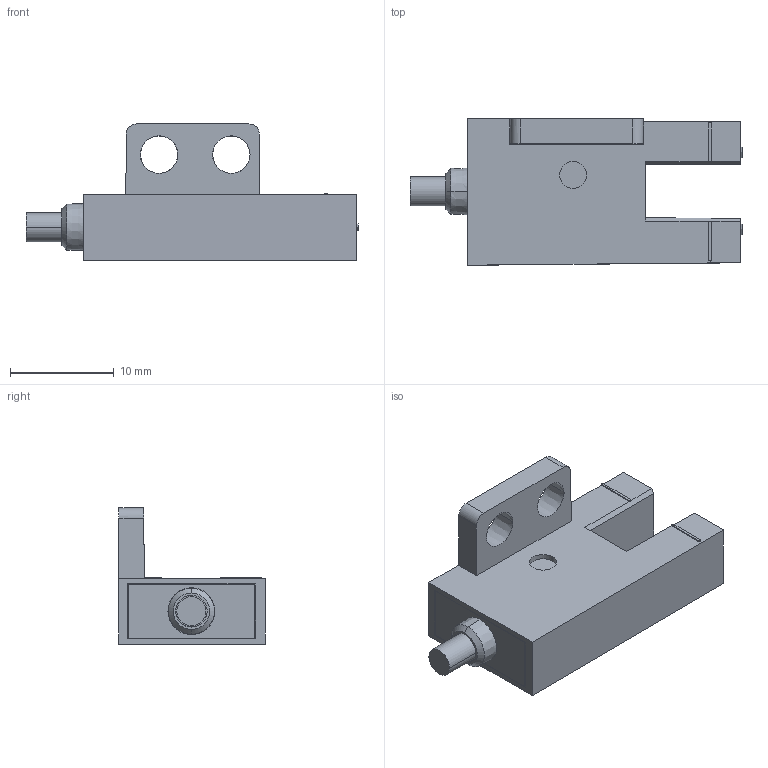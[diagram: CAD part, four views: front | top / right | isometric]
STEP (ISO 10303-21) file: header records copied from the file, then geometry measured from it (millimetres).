
FILE_DESCRIPTION((''),'2;1');
FILE_NAME('676_ASM_ASM','2018-07-16T14:28:10',('Administrator'),(''),'CREO PARAMETRIC BY PTC INC, 2016390','CREO PARAMETRIC BY PTC INC, 2016390','');
FILE_SCHEMA(('CONFIG_CONTROL_DESIGN'));
Length unit declared in the file: millimetre
Products named in the file (4): A1_108-67600_64; A2_40-676000_31; 676_ASM_6_ASM; 676_ASM_ASM
Assembly tree (3 placements, depth 3):
  676_ASM_ASM
    676_ASM_6_ASM
      A1_108-67600_64
      A2_40-676000_31
Bounding box: 31.94 x 14.08 x 13.1 mm (x, y, z)
Volume: 1110.7 mm3; surface area: 2643.6 mm2
Topology: 3 solids, 3 shells, 122 faces, 319 edges, 208 vertices
Faces by surface type: plane 102, cylinder 10, cone 10
Entity records: 3892 total; most frequent: CARTESIAN_POINT 752, ORIENTED_EDGE 638, DIRECTION 612, EDGE_CURVE 319, VECTOR 264, LINE 264, VERTEX_POINT 208, AXIS2_PLACEMENT_3D 174
